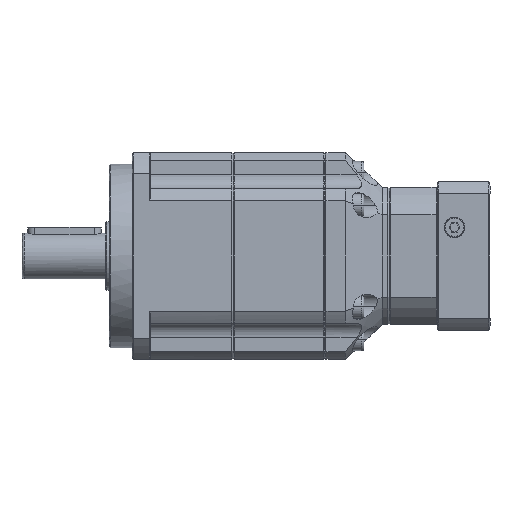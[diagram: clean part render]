
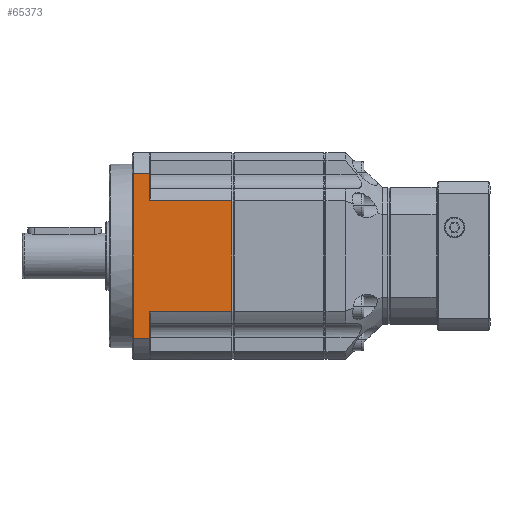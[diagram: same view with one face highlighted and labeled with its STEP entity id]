
A CAD part, front view. The second image highlights one B-rep face of the part: STEP entity #65373.
In plain terms, the highlighted planar face has unit normal (0, -1, 0).
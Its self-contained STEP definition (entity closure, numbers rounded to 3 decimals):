
#1334 = CARTESIAN_POINT ( 'NONE',  ( 10.5, -45., 35.795 ) ) ;
#2694 = EDGE_CURVE ( 'NONE', #42604, #43559, #81012, .T. ) ;
#3904 = CARTESIAN_POINT ( 'NONE',  ( 17.5, -45., -35.795 ) ) ;
#4940 = EDGE_CURVE ( 'NONE', #43559, #107122, #61154, .T. ) ;
#7065 = FACE_OUTER_BOUND ( 'NONE', #23687, .T. ) ;
#8203 = VERTEX_POINT ( 'NONE', #84428 ) ;
#12876 = DIRECTION ( 'NONE',  ( 0., 0., 1. ) ) ;
#16748 = LINE ( 'NONE', #80014, #29889 ) ;
#19397 = CARTESIAN_POINT ( 'NONE',  ( 17.5, -45., 0. ) ) ;
#21306 = VECTOR ( 'NONE', #106646, 1000. ) ;
#21604 = CARTESIAN_POINT ( 'NONE',  ( 17.5, -45., 0. ) ) ;
#23262 = EDGE_CURVE ( 'NONE', #57638, #42604, #16748, .T. ) ;
#23303 = DIRECTION ( 'NONE',  ( -1., 0., 0. ) ) ;
#23687 = EDGE_LOOP ( 'NONE', ( #69969, #54453, #51955, #44938, #101537, #30182, #106660, #87626 ) ) ;
#24867 = EDGE_CURVE ( 'NONE', #107122, #56610, #54258, .T. ) ;
#26581 = DIRECTION ( 'NONE',  ( 0., 0., -1. ) ) ;
#26695 = VECTOR ( 'NONE', #61536, 1000. ) ;
#29072 = PLANE ( 'NONE',  #39490 ) ;
#29889 = VECTOR ( 'NONE', #62148, 1000. ) ;
#30182 = ORIENTED_EDGE ( 'NONE', *, *, #82924, .T. ) ;
#30570 = LINE ( 'NONE', #56314, #96034 ) ;
#31069 = EDGE_CURVE ( 'NONE', #8203, #37622, #55887, .T. ) ;
#37622 = VERTEX_POINT ( 'NONE', #58158 ) ;
#39490 = AXIS2_PLACEMENT_3D ( 'NONE', #61732, #52929, #69746 ) ;
#41163 = VERTEX_POINT ( 'NONE', #92766 ) ;
#42604 = VERTEX_POINT ( 'NONE', #1334 ) ;
#43533 = LINE ( 'NONE', #83217, #21306 ) ;
#43559 = VERTEX_POINT ( 'NONE', #74504 ) ;
#44938 = ORIENTED_EDGE ( 'NONE', *, *, #31069, .F. ) ;
#47076 = CARTESIAN_POINT ( 'NONE',  ( 32., -45., -35.795 ) ) ;
#47094 = CARTESIAN_POINT ( 'NONE',  ( 17.5, -45., 35.795 ) ) ;
#49746 = DIRECTION ( 'NONE',  ( 0., 0., -1. ) ) ;
#51955 = ORIENTED_EDGE ( 'NONE', *, *, #94824, .F. ) ;
#52929 = DIRECTION ( 'NONE',  ( 0., -1., 0. ) ) ;
#54258 = LINE ( 'NONE', #19397, #26695 ) ;
#54453 = ORIENTED_EDGE ( 'NONE', *, *, #24867, .T. ) ;
#55887 = LINE ( 'NONE', #82682, #79393 ) ;
#56314 = CARTESIAN_POINT ( 'NONE',  ( 32., -45., 24. ) ) ;
#56610 = VERTEX_POINT ( 'NONE', #67118 ) ;
#57638 = VERTEX_POINT ( 'NONE', #47094 ) ;
#58158 = CARTESIAN_POINT ( 'NONE',  ( 53.5, -45., -24. ) ) ;
#61154 = LINE ( 'NONE', #47076, #104261 ) ;
#61536 = DIRECTION ( 'NONE',  ( 0., 0., 1. ) ) ;
#61732 = CARTESIAN_POINT ( 'NONE',  ( 10.5, -45., 35.795 ) ) ;
#62148 = DIRECTION ( 'NONE',  ( -1., 0., 0. ) ) ;
#62280 = EDGE_CURVE ( 'NONE', #8203, #41163, #30570, .T. ) ;
#64938 = VECTOR ( 'NONE', #12876, 1000. ) ;
#65373 = ADVANCED_FACE ( 'NONE', ( #7065 ), #29072, .T. ) ;
#67118 = CARTESIAN_POINT ( 'NONE',  ( 17.5, -45., -24. ) ) ;
#67926 = VECTOR ( 'NONE', #26581, 1000. ) ;
#69746 = DIRECTION ( 'NONE',  ( 0., 0., -1. ) ) ;
#69969 = ORIENTED_EDGE ( 'NONE', *, *, #4940, .T. ) ;
#74504 = CARTESIAN_POINT ( 'NONE',  ( 10.5, -45., -35.795 ) ) ;
#79393 = VECTOR ( 'NONE', #49746, 1000. ) ;
#80014 = CARTESIAN_POINT ( 'NONE',  ( 32., -45., 35.795 ) ) ;
#81012 = LINE ( 'NONE', #85107, #67926 ) ;
#82682 = CARTESIAN_POINT ( 'NONE',  ( 53.5, -45., 0. ) ) ;
#82924 = EDGE_CURVE ( 'NONE', #41163, #57638, #105466, .T. ) ;
#83217 = CARTESIAN_POINT ( 'NONE',  ( 35.392, -45., -24. ) ) ;
#84428 = CARTESIAN_POINT ( 'NONE',  ( 53.5, -45., 24. ) ) ;
#85107 = CARTESIAN_POINT ( 'NONE',  ( 10.5, -45., 0. ) ) ;
#87626 = ORIENTED_EDGE ( 'NONE', *, *, #2694, .T. ) ;
#92766 = CARTESIAN_POINT ( 'NONE',  ( 17.5, -45., 24. ) ) ;
#94824 = EDGE_CURVE ( 'NONE', #37622, #56610, #43533, .T. ) ;
#96034 = VECTOR ( 'NONE', #23303, 1000. ) ;
#101537 = ORIENTED_EDGE ( 'NONE', *, *, #62280, .T. ) ;
#104261 = VECTOR ( 'NONE', #105673, 1000. ) ;
#105466 = LINE ( 'NONE', #21604, #64938 ) ;
#105673 = DIRECTION ( 'NONE',  ( 1., 0., 0. ) ) ;
#106646 = DIRECTION ( 'NONE',  ( -1., 0., 0. ) ) ;
#106660 = ORIENTED_EDGE ( 'NONE', *, *, #23262, .T. ) ;
#107122 = VERTEX_POINT ( 'NONE', #3904 ) ;
